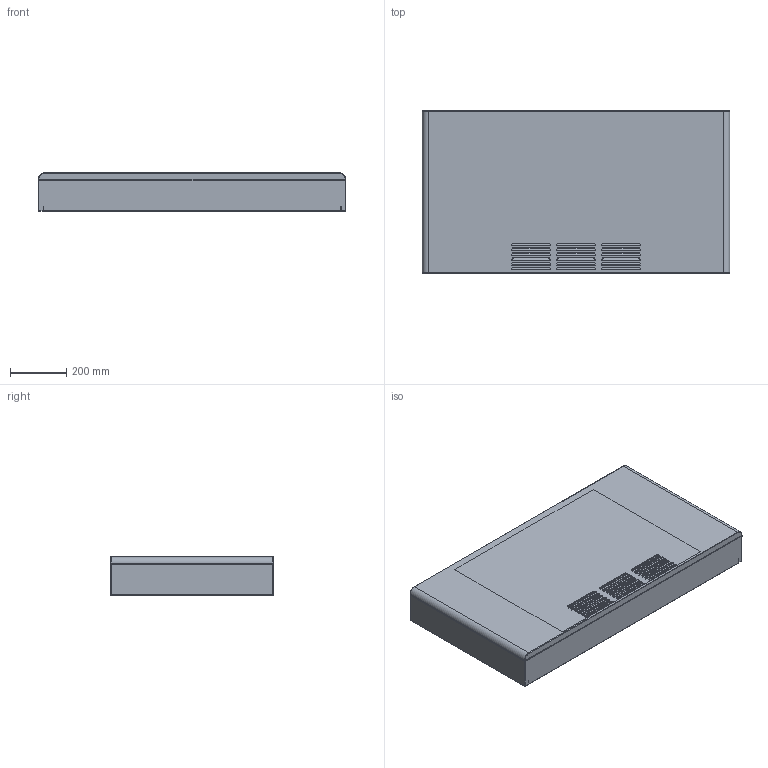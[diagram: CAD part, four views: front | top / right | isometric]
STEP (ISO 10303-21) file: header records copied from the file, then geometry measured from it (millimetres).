
FILE_DESCRIPTION((''),'2;1');
FILE_NAME('3584776100003','2024-08-01T09:40:24',('PC132'),(''),'CREO PARAMETRIC BY PTC INC, 2023092','CREO PARAMETRIC BY PTC INC, 2023092','');
FILE_SCHEMA(('AUTOMOTIVE_DESIGN { 1 0 10303 214 1 1 1 1 }'));
Length unit declared in the file: millimetre
Products named in the file (1): 3584776100003
Bounding box: 1094 x 578 x 136 mm (x, y, z)
Volume: 47537056.6 mm3; surface area: 3900737.4 mm2
Topology: 4 solids, 4 shells, 784 faces, 2105 edges, 1327 vertices
Faces by surface type: cylinder 346, plane 334, torus 54, sphere 34, bspline 16
Entity records: 37433 total; most frequent: CARTESIAN_POINT 6146, DIRECTION 4328, ORIENTED_EDGE 4210, PRESENTATION_STYLE_ASSIGNMENT 2517, STYLED_ITEM 2224, CURVE_STYLE 2183, EDGE_CURVE 2105, AXIS2_PLACEMENT_3D 1489
